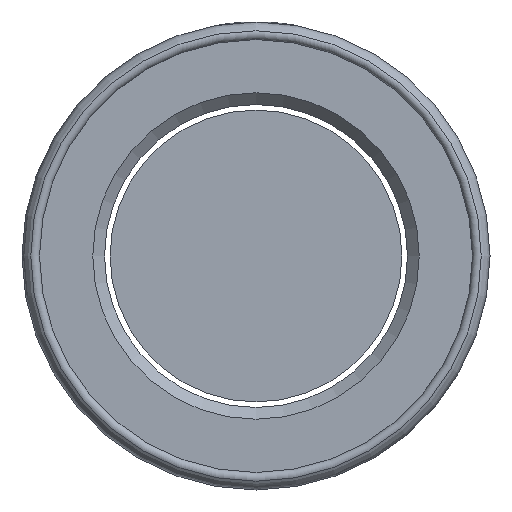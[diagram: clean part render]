
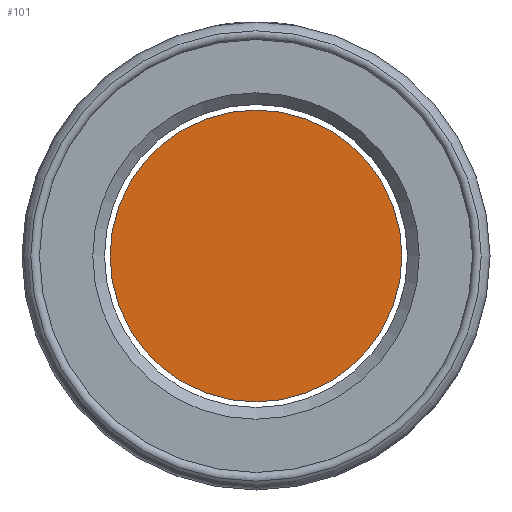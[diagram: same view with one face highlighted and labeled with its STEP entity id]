
A CAD part, front view. The second image highlights one B-rep face of the part: STEP entity #101.
In plain terms, the highlighted planar face has unit normal (0, -1, 0).
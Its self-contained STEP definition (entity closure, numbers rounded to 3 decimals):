
#80=PLANE('',#344);
#89=FACE_OUTER_BOUND('',#160,.T.);
#101=ADVANCED_FACE('',(#89),#80,.T.);
#160=EDGE_LOOP('',(#198));
#198=ORIENTED_EDGE('',*,*,#290,.T.);
#264=VERTEX_POINT('',#469);
#290=EDGE_CURVE('',#264,#264,#324,.T.);
#324=CIRCLE('',#341,12.475);
#341=AXIS2_PLACEMENT_3D('',#468,#382,#383);
#344=AXIS2_PLACEMENT_3D('',#472,#388,#389);
#382=DIRECTION('',(0.,-1.,0.));
#383=DIRECTION('',(1.,0.,0.));
#388=DIRECTION('',(0.,-1.,0.));
#389=DIRECTION('',(0.,0.,-1.));
#468=CARTESIAN_POINT('',(0.,-10.,0.));
#469=CARTESIAN_POINT('',(12.475,-10.,0.));
#472=CARTESIAN_POINT('',(0.,-10.,0.));
